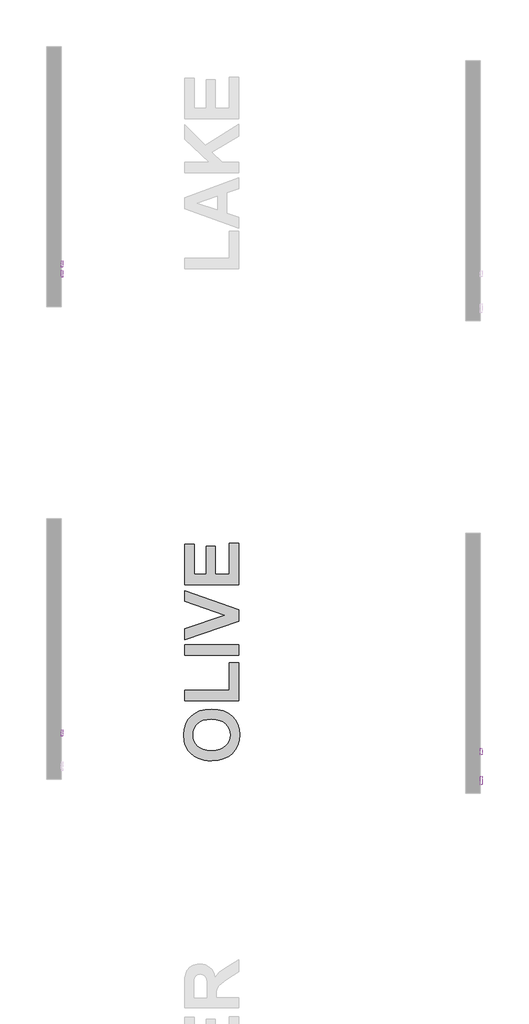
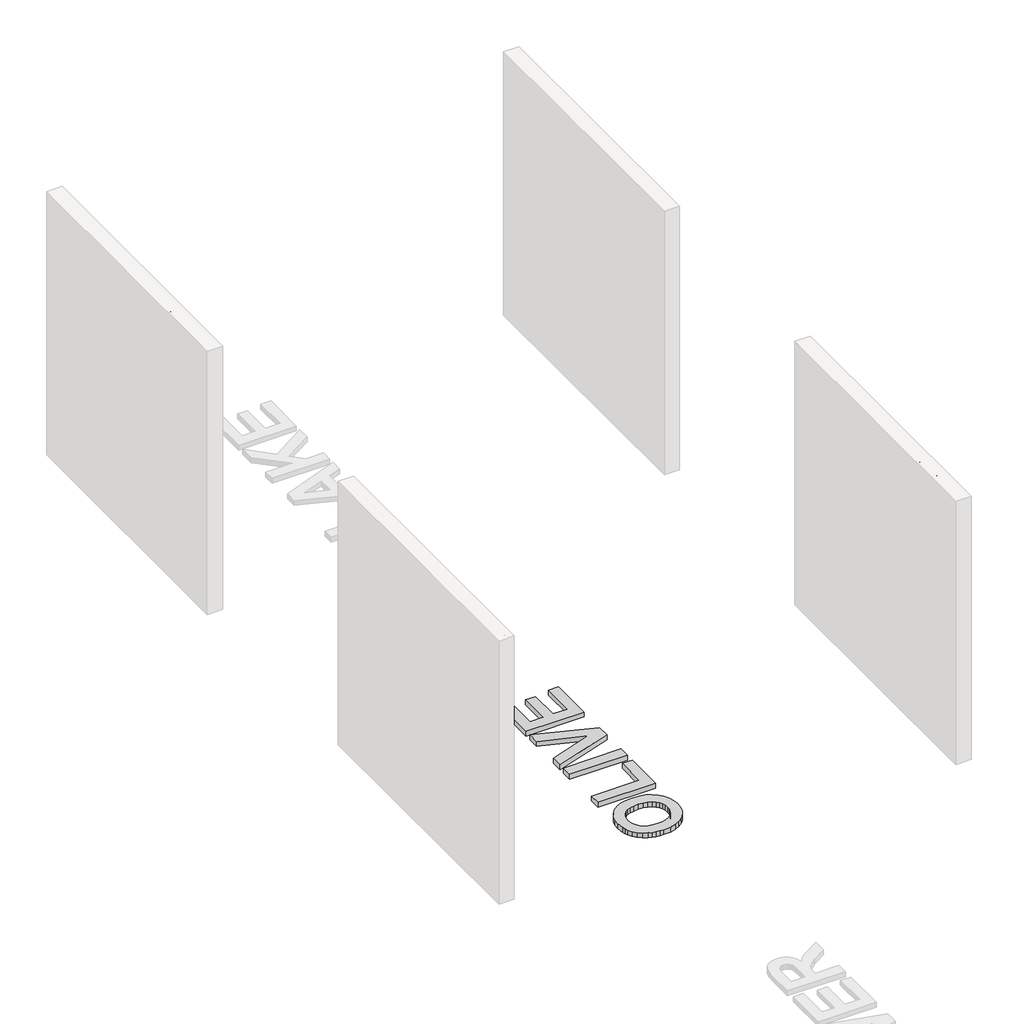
# One storey, part 8 of 10: 6 proxies.
"""IFC4 building model written with IfcOpenShell, lengths in millimetres."""

from ifc_helpers import new_model, si_unit, frame, origin, origin_with_axes, place, context, project, spatial, polyline, outline, extrude, element, save

model = new_model("IFC4")

# Units and contexts
model_context = context("Model", 3, world=origin())
ifc_project = project(units=[si_unit("LENGTHUNIT", "METRE", prefix="MILLI")], contexts=[model_context])

# Site, building, storey
site = spatial("IfcSite", under=ifc_project)
building = spatial("IfcBuilding", under=site)
storey = spatial("IfcBuildingStorey", under=building, Name="PORTOBELLO - SHOWROOM", Elevation=0.0)

# Proxies
placement = place(None, origin())
element("IfcBuildingElementProxy", 1, Name="10mm Arial", ObjectType="10mm Arial", at=placement, inside=storey, context=model_context, shape_type="SweptSolid", body=[
    extrude(outline(polyline([(5638.3898107, 2518.4745677), (5638.3898107, 2618.9308778), (5650.9468495, 2618.9308778), (5650.9468495, 2531.0316064), (5701.1750046, 2531.0316064), (5701.1750046, 2518.4745677), (5638.3898107, 2518.4745677)])), frame((-30275.742133, 0.0, 0.0), z_axis=(1.0, 0.0, 0.0), x_axis=(0.0, 1.0, 0.0)), (0.0, 0.0, 1.0), 20.0),
    extrude(outline(polyline([(5760.8209387, 2527.8923467), (5748.6440447, 2519.3820099), (5735.1918264, 2516.9049378), (5724.6979925, 2518.3948599), (5716.9571422, 2522.8646261), (5712.1838733, 2529.6520489), (5710.5927837, 2538.0949407), (5712.9962794, 2548.0277546), (5719.3115869, 2555.2382417), (5728.1039666, 2559.3585201), (5738.9687482, 2561.246981), (5760.7473623, 2565.563463), (5760.8209387, 2568.3593662), (5757.362848, 2577.6299925), (5743.481434, 2581.2597615), (5730.7772425, 2578.8440031), (5724.7194523, 2570.2723526), (5712.1624135, 2571.8419824), (5717.5948043, 2584.1047156), (5728.5331623, 2591.2906772), (5745.1001148, 2593.8168003), (5760.3181667, 2591.5849828), (5768.9143426, 2585.9809138), (5772.7648408, 2577.4583142), (5773.3779775, 2566.4709053), (5773.3779775, 2550.8481832), (5774.0156396, 2529.0327809), (5776.5172372, 2518.4745677), (5763.9601984, 2518.4745677), (5760.8209387, 2527.8923467)]), holes=[polyline([(5760.8209387, 2553.0064243), (5740.5629035, 2549.1559261), (5729.7594356, 2547.1203124), (5724.8666051, 2543.8093744), (5723.1498224, 2538.9778575), (5726.889956, 2532.1843033), (5737.8651022, 2529.4619766), (5750.5692938, 2532.4663462), (5758.7607996, 2539.738147), (5760.7473623, 2549.4502317), (5760.8209387, 2553.0064243)])]), frame((-30275.742133, 0.0, 0.0), z_axis=(1.0, 0.0, 0.0), x_axis=(0.0, 1.0, 0.0)), (0.0, 0.0, 1.0), 20.0),
    extrude(outline(polyline([(5790.6439058, 2518.4745677), (5790.6439058, 2618.9308778), (5803.2009446, 2618.9308778), (5803.2009446, 2564.9503264), (5831.3561799, 2592.2471704), (5848.7202101, 2592.2471704), (5820.2216182, 2564.6069699), (5850.28984, 2518.4745677), (5835.6236111, 2518.4745677), (5811.2207721, 2555.8759038), (5803.2009446, 2548.101331), (5803.2009446, 2518.4745677), (5790.6439058, 2518.4745677)])), frame((-30275.742133, 0.0, 0.0), z_axis=(1.0, 0.0, 0.0), x_axis=(0.0, 1.0, 0.0)), (0.0, 0.0, 1.0), 20.0),
    extrude(outline(polyline([(5912.927881, 2540.4493855), (5925.2396651, 2538.8797557), (5920.8036214, 2529.602998), (5913.7249587, 2522.6684224), (5904.1630925, 2518.345809), (5892.2774383, 2516.9049378), (5877.5437644, 2519.391207), (5866.2068676, 2526.8500144), (5858.9779864, 2538.7969822), (5856.5683593, 2554.7477324), (5859.0025119, 2571.2349771), (5866.3049695, 2583.5651553), (5877.4885821, 2591.253889), (5891.5661998, 2593.8168003), (5905.2054248, 2591.2600204), (5916.1039289, 2583.5896808), (5923.2500366, 2571.2840281), (5925.6320726, 2554.8213088), (5925.5584962, 2551.4367944), (5869.1253981, 2551.4367944), (5871.2989676, 2542.0374095), (5876.3481479, 2535.1273593), (5883.6352771, 2530.8783223), (5892.522693, 2529.4619766), (5904.8344771, 2532.0862015), (5912.927881, 2540.4493855)]), holes=[polyline([(5869.1253981, 2563.9938332), (5913.0750338, 2563.9938332), (5908.0473132, 2575.3736496), (5900.7264615, 2579.7882335), (5891.5171489, 2581.2597615), (5876.0538423, 2576.5631347), (5871.188603, 2571.0724959), (5869.1253981, 2563.9938332)])]), frame((-30275.742133, 0.0, 0.0), z_axis=(1.0, 0.0, 0.0), x_axis=(0.0, 1.0, 0.0)), (0.0, 0.0, 1.0), 20.0),
])
element("IfcBuildingElementProxy", 2, Name="10mm Arial", ObjectType="10mm Arial", at=placement, inside=storey, context=model_context, shape_type="SweptSolid", body=[
    extrude(outline(polyline([(592.0218065, 2518.4745677), (592.0218065, 2618.9308778), (635.3092546, 2618.9308778), (655.4078742, 2616.2208138), (666.3952832, 2606.6313564), (670.5032988, 2591.43783), (668.8018445, 2581.5418044), (663.6974819, 2573.3380359), (655.0369266, 2567.3231653), (642.6668945, 2563.9938332), (649.8038052, 2558.6227561), (659.9818737, 2545.6978353), (676.7327672, 2518.4745677), (662.1401147, 2518.4745677), (649.0680412, 2539.2966886), (639.6257366, 2553.0800007), (632.991598, 2559.591512), (627.0196469, 2561.982745), (619.7355834, 2562.4242034), (604.5788452, 2562.4242034), (604.5788452, 2518.4745677), (592.0218065, 2518.4745677)]), holes=[polyline([(604.5788452, 2574.9812421), (632.6850297, 2574.9812421), (647.0201647, 2576.7593384), (655.1626196, 2582.4492466), (657.94626, 2590.9718462), (652.6364965, 2602.0328315), (635.8488148, 2606.373839), (604.5788452, 2606.373839), (604.5788452, 2574.9812421)])]), frame((-25926.2609603, 0.0, 0.0), z_axis=(1.0, 0.0, 0.0), x_axis=(0.0, 1.0, 0.0)), (0.0, 0.0, 1.0), 20.0),
    extrude(outline(polyline([(737.9973822, 2527.8923467), (725.8204881, 2519.3820099), (712.3682698, 2516.9049378), (701.8744359, 2518.3948599), (694.1335856, 2522.8646261), (689.3603167, 2529.6520489), (687.7692271, 2538.0949407), (690.1727228, 2548.0277546), (696.4880304, 2555.2382417), (705.28041, 2559.3585201), (716.1451916, 2561.246981), (737.9238058, 2565.563463), (737.9973822, 2568.3593662), (734.5392914, 2577.6299925), (720.6578774, 2581.2597615), (707.9536859, 2578.8440031), (701.8958957, 2570.2723526), (689.3388569, 2571.8419824), (694.7712477, 2584.1047156), (705.7096057, 2591.2906772), (722.2765582, 2593.8168003), (737.4946101, 2591.5849828), (746.090786, 2585.9809138), (749.9412843, 2577.4583142), (750.5544209, 2566.4709053), (750.5544209, 2550.8481832), (751.192083, 2529.0327809), (753.6936806, 2518.4745677), (741.1366418, 2518.4745677), (737.9973822, 2527.8923467)]), holes=[polyline([(737.9973822, 2553.0064243), (717.739347, 2549.1559261), (706.935879, 2547.1203124), (702.0430485, 2543.8093744), (700.3262658, 2538.9778575), (704.0663995, 2532.1843033), (715.0415457, 2529.4619766), (727.7457372, 2532.4663462), (735.937243, 2539.738147), (737.9238058, 2549.4502317), (737.9973822, 2553.0064243)])]), frame((-25926.2609603, 0.0, 0.0), z_axis=(1.0, 0.0, 0.0), x_axis=(0.0, 1.0, 0.0)), (0.0, 0.0, 1.0), 20.0),
    extrude(outline(polyline([(-25906.2609603, 780.377388), (-25906.2609603, 767.8203492), (-25926.2609603, 767.8203492), (-25926.2609603, 780.377388), (-25906.2609603, 780.377388)])), frame((0.0, 0.0, 2606.373839), z_axis=(0.0, 0.0, 1.0), x_axis=(1.0, 0.0, 0.0)), (0.0, 0.0, 1.0), 12.5570388),
    extrude(outline(polyline([(-25906.2609603, 780.377388), (-25906.2609603, 767.8203492), (-25926.2609603, 767.8203492), (-25926.2609603, 780.377388), (-25906.2609603, 780.377388)])), frame((0.0, 0.0, 2518.4745677), z_axis=(0.0, 0.0, 1.0), x_axis=(1.0, 0.0, 0.0)), (0.0, 0.0, 1.0), 73.7726028),
    extrude(outline(polyline([(799.2129462, 2518.4745677), (799.2129462, 2592.2471704), (811.7699849, 2592.2471704), (811.7699849, 2581.9464746), (821.371705, 2590.8492188), (834.4805668, 2593.8168003), (846.3386297, 2591.4255673), (854.4320336, 2585.1470479), (858.1966927, 2575.9132098), (858.8588803, 2563.773104), (858.8588803, 2518.4745677), (846.3018415, 2518.4745677), (846.3018415, 2562.0808468), (844.854839, 2573.1908831), (839.7412793, 2579.0647323), (831.1205779, 2581.2597615), (817.4966813, 2576.3301428), (813.201659, 2569.1871007), (811.7699849, 2557.6172119), (811.7699849, 2518.4745677), (799.2129462, 2518.4745677)])), frame((-25926.2609603, 0.0, 0.0), z_axis=(1.0, 0.0, 0.0), x_axis=(0.0, 1.0, 0.0)), (0.0, 0.0, 1.0), 20.0),
])
element("IfcBuildingElementProxy", 3, Name="10mm Arial Narrow", ObjectType="10mm Arial Narrow", at=placement, inside=storey, context=model_context, shape_type="SweptSolid", body=[
    extrude(outline(polyline([(1095.7037104, 2518.4745677), (1095.7037104, 2619.1931714), (1127.000595, 2619.1931714), (1143.2962966, 2617.3148507), (1154.7692827, 2607.8344075), (1159.0589611, 2590.8152987), (1157.2726527, 2578.7394731), (1151.9137275, 2569.1130794), (1142.1699387, 2562.811821), (1127.2290395, 2560.7114015), (1105.450672, 2560.7114015), (1105.450672, 2518.4745677), (1095.7037104, 2518.4745677)]), holes=[polyline([(1105.450672, 2572.0828568), (1128.422027, 2572.0828568), (1144.2862224, 2576.613671), (1149.3119995, 2590.2822617), (1146.837185, 2600.4480381), (1140.8595561, 2606.247988), (1128.1935825, 2607.8217162), (1105.450672, 2607.8217162), (1105.450672, 2572.0828568)])]), frame((-30275.742133, 0.0, 0.0), z_axis=(1.0, 0.0, 0.0), x_axis=(0.0, 1.0, 0.0)), (0.0, 0.0, 1.0), 20.0),
    extrude(outline(polyline([(1167.1814292, 2555.0256739), (1169.135898, 2571.6164494), (1174.9993046, 2583.5685342), (1183.8578714, 2590.7930888), (1194.7978205, 2593.2012737), (1205.6108561, 2590.7930888), (1214.4948055, 2583.5685342), (1220.4343603, 2571.8068198), (1222.4142119, 2555.7871552), (1220.4692615, 2538.6252687), (1214.6344104, 2526.4828135), (1205.7853622, 2519.2582589), (1194.7978205, 2516.8500741), (1183.9371923, 2519.2646046), (1175.0627614, 2526.5081962), (1169.1517622, 2538.4666267), (1167.1814292, 2555.0256739)]), holes=[polyline([(1176.9283908, 2555.0510566), (1178.2324277, 2542.4993052), (1182.1445383, 2533.6280471), (1187.985735, 2528.3547886), (1195.0770303, 2526.5970357), (1201.7971035, 2528.3706528), (1207.4891768, 2533.6915039), (1211.3727319, 2542.5786262), (1212.6672502, 2555.0510566), (1211.3632133, 2567.5647339), (1207.4511028, 2576.4233006), (1201.609906, 2581.6965592), (1194.5186107, 2583.454312), (1187.7509449, 2581.6870407), (1182.0683901, 2576.3852265), (1178.2133906, 2567.5171413), (1176.9283908, 2555.0510566)])]), frame((-30275.742133, 0.0, 0.0), z_axis=(1.0, 0.0, 0.0), x_axis=(0.0, 1.0, 0.0)), (0.0, 0.0, 1.0), 20.0),
    extrude(outline(polyline([(1293.8919306, 2526.5970357), (1295.5164243, 2516.8500741), (1288.1554376, 2516.8500741), (1279.8806733, 2518.9695306), (1275.5656121, 2524.7694804), (1274.3980073, 2539.4153056), (1274.3980073, 2581.8298184), (1266.2755393, 2581.8298184), (1266.2755393, 2585.0788056), (1264.6510457, 2580.2053248), (1257.0869973, 2581.8298184), (1251.0078376, 2579.5073002), (1247.136974, 2573.0220171), (1245.1571224, 2557.6147106), (1245.1571224, 2518.4745677), (1235.4101607, 2518.4745677), (1235.4101607, 2591.5767801), (1245.1571224, 2591.5767801), (1245.1571224, 2581.8805838), (1251.4012697, 2590.967595), (1257.7977133, 2593.2012737), (1266.2755393, 2591.5767801), (1274.3980073, 2591.5767801), (1274.3980073, 2607.8217162), (1284.144969, 2615.9441842), (1284.144969, 2591.5767801), (1293.8919306, 2591.5767801), (1293.8919306, 2581.8298184), (1284.144969, 2581.8298184), (1284.144969, 2537.1816269), (1285.0079812, 2529.1860724), (1289.6276349, 2526.5970357), (1293.8919306, 2526.5970357)])), frame((-30275.742133, 0.0, 0.0), z_axis=(1.0, 0.0, 0.0), x_axis=(0.0, 1.0, 0.0)), (0.0, 0.0, 1.0), 20.0),
    extrude(outline(polyline([(1300.3899051, 2555.0256739), (1302.344374, 2571.6164494), (1308.2077806, 2583.5685342), (1317.0663473, 2590.7930888), (1328.0062964, 2593.2012737), (1338.819332, 2590.7930888), (1347.7032814, 2583.5685342), (1353.6428362, 2571.8068198), (1355.6226878, 2555.7871552), (1353.6777374, 2538.6252687), (1347.8428864, 2526.4828135), (1338.9938382, 2519.2582589), (1328.0062964, 2516.8500741), (1317.1456683, 2519.2646046), (1308.2712374, 2526.5081962), (1302.3602382, 2538.4666267), (1300.3899051, 2555.0256739)]), holes=[polyline([(1310.1368667, 2555.0510566), (1311.4409036, 2542.4993052), (1315.3530142, 2533.6280471), (1321.1942109, 2528.3547886), (1328.2855063, 2526.5970357), (1335.0055794, 2528.3706528), (1340.6976528, 2533.6915039), (1344.5812078, 2542.5786262), (1345.8757261, 2555.0510566), (1344.5716893, 2567.5647339), (1340.6595787, 2576.4233006), (1334.8183819, 2581.6965592), (1327.7270866, 2583.454312), (1320.9594208, 2581.6870407), (1315.276866, 2576.3852265), (1311.4218666, 2567.5171413), (1310.1368667, 2555.0510566)])]), frame((-30275.742133, 0.0, 0.0), z_axis=(1.0, 0.0, 0.0), x_axis=(0.0, 1.0, 0.0)), (0.0, 0.0, 1.0), 20.0),
    extrude(outline(polyline([(1378.3655983, 2518.4745677), (1368.6186367, 2518.4745677), (1368.6186367, 2619.1931714), (1378.3655983, 2619.1931714), (1378.3655983, 2583.7842873), (1385.764659, 2590.8660641), (1394.9658924, 2593.2012737), (1407.847619, 2589.0004347), (1417.1250005, 2576.2710043), (1420.6024321, 2555.5840935), (1418.6701731, 2539.1297501), (1412.8733961, 2526.927011), (1404.5002738, 2519.3693083), (1394.8389788, 2516.8500741), (1385.4981406, 2519.4644935), (1378.3655983, 2527.2316035), (1378.3655983, 2518.4745677)]), holes=[polyline([(1378.3655983, 2555.5840935), (1380.4469807, 2538.3365403), (1386.3357701, 2529.6048872), (1394.7882134, 2526.5970357), (1400.730941, 2528.3865169), (1405.9692983, 2533.7549607), (1410.8554705, 2555.1779701), (1406.1469773, 2576.613671), (1400.9022743, 2581.7441518), (1394.5851517, 2583.454312), (1388.6075229, 2581.6648308), (1383.3152273, 2576.2963871), (1378.3655983, 2555.5840935)])]), frame((-30275.742133, 0.0, 0.0), z_axis=(1.0, 0.0, 0.0), x_axis=(0.0, 1.0, 0.0)), (0.0, 0.0, 1.0), 20.0),
    extrude(outline(polyline([(1472.5862276, 2541.2174782), (1482.3331893, 2539.5929846), (1478.6336589, 2529.706418), (1472.814672, 2522.5865671), (1465.1110188, 2518.2841973), (1455.7574891, 2516.8500741), (1444.1639351, 2519.2646046), (1435.0198129, 2526.5081962), (1429.0802582, 2538.3143304), (1427.1004066, 2554.4164888), (1429.0897767, 2571.0834124), (1435.057887, 2583.2639417), (1444.0719228, 2590.7169407), (1455.1990695, 2593.2012737), (1465.8820187, 2590.8026073), (1474.629536, 2583.6066083), (1480.4643871, 2571.8671037), (1482.4093374, 2555.8379207), (1482.3331893, 2552.5889335), (1436.8473682, 2552.5889335), (1442.8503798, 2533.1457756), (1448.780416, 2528.2342207), (1455.8844027, 2526.5970357), (1466.0628705, 2530.2521463), (1472.5862276, 2541.2174782)]), holes=[polyline([(1437.5073188, 2562.3358951), (1472.5862276, 2562.3358951), (1468.3219319, 2576.6009796), (1462.4965994, 2581.7409789), (1455.2752176, 2583.454312), (1443.0661328, 2577.7432017), (1437.5073188, 2562.3358951)])]), frame((-30275.742133, 0.0, 0.0), z_axis=(1.0, 0.0, 0.0), x_axis=(0.0, 1.0, 0.0)), (0.0, 0.0, 1.0), 20.0),
    extrude(outline(polyline([(-30255.742133, 1505.0760998), (-30255.742133, 1495.3291382), (-30275.742133, 1495.3291382), (-30275.742133, 1505.0760998), (-30255.742133, 1505.0760998)])), frame((0.0, 0.0, 2518.4745677), z_axis=(0.0, 0.0, 1.0), x_axis=(1.0, 0.0, 0.0)), (0.0, 0.0, 1.0), 100.7186038),
    extrude(outline(polyline([(-30255.742133, 1531.0679975), (-30255.742133, 1521.3210359), (-30275.742133, 1521.3210359), (-30275.742133, 1531.0679975), (-30255.742133, 1531.0679975)])), frame((0.0, 0.0, 2518.4745677), z_axis=(0.0, 0.0, 1.0), x_axis=(1.0, 0.0, 0.0)), (0.0, 0.0, 1.0), 100.7186038),
    extrude(outline(polyline([(1542.4394528, 2555.0256739), (1544.3939217, 2571.6164494), (1550.2573283, 2583.5685342), (1559.115895, 2590.7930888), (1570.0558442, 2593.2012737), (1580.8688797, 2590.7930888), (1589.7528292, 2583.5685342), (1595.6923839, 2571.8068198), (1597.6722355, 2555.7871552), (1595.7272852, 2538.6252687), (1589.8924341, 2526.4828135), (1581.0433859, 2519.2582589), (1570.0558442, 2516.8500741), (1559.195216, 2519.2646046), (1550.3207851, 2526.5081962), (1544.4097859, 2538.4666267), (1542.4394528, 2555.0256739)]), holes=[polyline([(1552.1864145, 2555.0510566), (1553.4904513, 2542.4993052), (1557.4025619, 2533.6280471), (1563.2437587, 2528.3547886), (1570.335054, 2526.5970357), (1577.0551272, 2528.3706528), (1582.7472005, 2533.6915039), (1586.6307555, 2542.5786262), (1587.9252739, 2555.0510566), (1586.621237, 2567.5647339), (1582.7091264, 2576.4233006), (1576.8679297, 2581.6965592), (1569.7766343, 2583.454312), (1563.0089686, 2581.6870407), (1557.3264138, 2576.3852265), (1553.4714143, 2567.5171413), (1552.1864145, 2555.0510566)])]), frame((-30275.742133, 0.0, 0.0), z_axis=(1.0, 0.0, 0.0), x_axis=(0.0, 1.0, 0.0)), (0.0, 0.0, 1.0), 20.0),
])
element("IfcBuildingElementProxy", 4, Name="10mm Arial Narrow", ObjectType="10mm Arial Narrow", at=placement, inside=storey, context=model_context, shape_type="SweptSolid", body=[
    extrude(outline(polyline([(5960.7037104, 2518.4745677), (5960.7037104, 2619.1931714), (5992.000595, 2619.1931714), (6008.2962966, 2617.3148507), (6019.7692827, 2607.8344075), (6024.0589611, 2590.8152987), (6022.2726527, 2578.7394731), (6016.9137275, 2569.1130794), (6007.1699387, 2562.811821), (5992.2290395, 2560.7114015), (5970.450672, 2560.7114015), (5970.450672, 2518.4745677), (5960.7037104, 2518.4745677)]), holes=[polyline([(5970.450672, 2572.0828568), (5993.422027, 2572.0828568), (6009.2862224, 2576.613671), (6014.3119995, 2590.2822617), (6011.837185, 2600.4480381), (6005.8595561, 2606.247988), (5993.1935825, 2607.8217162), (5970.450672, 2607.8217162), (5970.450672, 2572.0828568)])]), frame((-30275.742133, 0.0, 0.0), z_axis=(1.0, 0.0, 0.0), x_axis=(0.0, 1.0, 0.0)), (0.0, 0.0, 1.0), 20.0),
    extrude(outline(polyline([(6032.1814292, 2555.0256739), (6034.135898, 2571.6164494), (6039.9993046, 2583.5685342), (6048.8578714, 2590.7930888), (6059.7978205, 2593.2012737), (6070.6108561, 2590.7930888), (6079.4948055, 2583.5685342), (6085.4343603, 2571.8068198), (6087.4142119, 2555.7871552), (6085.4692615, 2538.6252687), (6079.6344104, 2526.4828135), (6070.7853622, 2519.2582589), (6059.7978205, 2516.8500741), (6048.9371923, 2519.2646046), (6040.0627614, 2526.5081962), (6034.1517622, 2538.4666267), (6032.1814292, 2555.0256739)]), holes=[polyline([(6041.9283908, 2555.0510566), (6043.2324277, 2542.4993052), (6047.1445383, 2533.6280471), (6052.985735, 2528.3547886), (6060.0770303, 2526.5970357), (6066.7971035, 2528.3706528), (6072.4891768, 2533.6915039), (6076.3727319, 2542.5786262), (6077.6672502, 2555.0510566), (6076.3632133, 2567.5647339), (6072.4511028, 2576.4233006), (6066.609906, 2581.6965592), (6059.5186107, 2583.454312), (6052.7509449, 2581.6870407), (6047.0683901, 2576.3852265), (6043.2133906, 2567.5171413), (6041.9283908, 2555.0510566)])]), frame((-30275.742133, 0.0, 0.0), z_axis=(1.0, 0.0, 0.0), x_axis=(0.0, 1.0, 0.0)), (0.0, 0.0, 1.0), 20.0),
    extrude(outline(polyline([(6158.8919306, 2526.5970357), (6160.5164243, 2516.8500741), (6153.1554376, 2516.8500741), (6144.8806733, 2518.9695306), (6140.5656121, 2524.7694804), (6139.3980073, 2539.4153056), (6139.3980073, 2581.8298184), (6131.2755393, 2581.8298184), (6131.2755393, 2585.0788056), (6129.6510457, 2580.2053248), (6122.0869973, 2581.8298184), (6116.0078376, 2579.5073002), (6112.136974, 2573.0220171), (6110.1571224, 2557.6147106), (6110.1571224, 2518.4745677), (6100.4101607, 2518.4745677), (6100.4101607, 2591.5767801), (6110.1571224, 2591.5767801), (6110.1571224, 2581.8805838), (6116.4012697, 2590.967595), (6122.7977133, 2593.2012737), (6131.2755393, 2591.5767801), (6139.3980073, 2591.5767801), (6139.3980073, 2607.8217162), (6149.144969, 2615.9441842), (6149.144969, 2591.5767801), (6158.8919306, 2591.5767801), (6158.8919306, 2581.8298184), (6149.144969, 2581.8298184), (6149.144969, 2537.1816269), (6150.0079812, 2529.1860724), (6154.6276349, 2526.5970357), (6158.8919306, 2526.5970357)])), frame((-30275.742133, 0.0, 0.0), z_axis=(1.0, 0.0, 0.0), x_axis=(0.0, 1.0, 0.0)), (0.0, 0.0, 1.0), 20.0),
    extrude(outline(polyline([(6165.3899051, 2555.0256739), (6167.344374, 2571.6164494), (6173.2077806, 2583.5685342), (6182.0663473, 2590.7930888), (6193.0062964, 2593.2012737), (6203.819332, 2590.7930888), (6212.7032814, 2583.5685342), (6218.6428362, 2571.8068198), (6220.6226878, 2555.7871552), (6218.6777374, 2538.6252687), (6212.8428864, 2526.4828135), (6203.9938382, 2519.2582589), (6193.0062964, 2516.8500741), (6182.1456683, 2519.2646046), (6173.2712374, 2526.5081962), (6167.3602382, 2538.4666267), (6165.3899051, 2555.0256739)]), holes=[polyline([(6175.1368667, 2555.0510566), (6176.4409036, 2542.4993052), (6180.3530142, 2533.6280471), (6186.1942109, 2528.3547886), (6193.2855063, 2526.5970357), (6200.0055794, 2528.3706528), (6205.6976528, 2533.6915039), (6209.5812078, 2542.5786262), (6210.8757261, 2555.0510566), (6209.5716893, 2567.5647339), (6205.6595787, 2576.4233006), (6199.8183819, 2581.6965592), (6192.7270866, 2583.454312), (6185.9594208, 2581.6870407), (6180.276866, 2576.3852265), (6176.4218666, 2567.5171413), (6175.1368667, 2555.0510566)])]), frame((-30275.742133, 0.0, 0.0), z_axis=(1.0, 0.0, 0.0), x_axis=(0.0, 1.0, 0.0)), (0.0, 0.0, 1.0), 20.0),
    extrude(outline(polyline([(6243.3655983, 2518.4745677), (6233.6186367, 2518.4745677), (6233.6186367, 2619.1931714), (6243.3655983, 2619.1931714), (6243.3655983, 2583.7842873), (6250.764659, 2590.8660641), (6259.9658924, 2593.2012737), (6272.847619, 2589.0004347), (6282.1250005, 2576.2710043), (6285.6024321, 2555.5840935), (6283.6701731, 2539.1297501), (6277.8733961, 2526.927011), (6269.5002738, 2519.3693083), (6259.8389788, 2516.8500741), (6250.4981406, 2519.4644935), (6243.3655983, 2527.2316035), (6243.3655983, 2518.4745677)]), holes=[polyline([(6243.3655983, 2555.5840935), (6245.4469807, 2538.3365403), (6251.3357701, 2529.6048872), (6259.7882134, 2526.5970357), (6265.730941, 2528.3865169), (6270.9692983, 2533.7549607), (6275.8554705, 2555.1779701), (6271.1469773, 2576.613671), (6265.9022743, 2581.7441518), (6259.5851517, 2583.454312), (6253.6075229, 2581.6648308), (6248.3152273, 2576.2963871), (6243.3655983, 2555.5840935)])]), frame((-30275.742133, 0.0, 0.0), z_axis=(1.0, 0.0, 0.0), x_axis=(0.0, 1.0, 0.0)), (0.0, 0.0, 1.0), 20.0),
    extrude(outline(polyline([(6337.5862276, 2541.2174782), (6347.3331893, 2539.5929846), (6343.6336589, 2529.706418), (6337.814672, 2522.5865671), (6330.1110188, 2518.2841973), (6320.7574891, 2516.8500741), (6309.1639351, 2519.2646046), (6300.0198129, 2526.5081962), (6294.0802582, 2538.3143304), (6292.1004066, 2554.4164888), (6294.0897767, 2571.0834124), (6300.057887, 2583.2639417), (6309.0719228, 2590.7169407), (6320.1990695, 2593.2012737), (6330.8820187, 2590.8026073), (6339.629536, 2583.6066083), (6345.4643871, 2571.8671037), (6347.4093374, 2555.8379207), (6347.3331893, 2552.5889335), (6301.8473682, 2552.5889335), (6307.8503798, 2533.1457756), (6313.780416, 2528.2342207), (6320.8844027, 2526.5970357), (6331.0628705, 2530.2521463), (6337.5862276, 2541.2174782)]), holes=[polyline([(6302.5073188, 2562.3358951), (6337.5862276, 2562.3358951), (6333.3219319, 2576.6009796), (6327.4965994, 2581.7409789), (6320.2752176, 2583.454312), (6308.0661328, 2577.7432017), (6302.5073188, 2562.3358951)])]), frame((-30275.742133, 0.0, 0.0), z_axis=(1.0, 0.0, 0.0), x_axis=(0.0, 1.0, 0.0)), (0.0, 0.0, 1.0), 20.0),
    extrude(outline(polyline([(-30255.742133, 6370.0760998), (-30255.742133, 6360.3291382), (-30275.742133, 6360.3291382), (-30275.742133, 6370.0760998), (-30255.742133, 6370.0760998)])), frame((0.0, 0.0, 2518.4745677), z_axis=(0.0, 0.0, 1.0), x_axis=(1.0, 0.0, 0.0)), (0.0, 0.0, 1.0), 100.7186038),
    extrude(outline(polyline([(-30255.742133, 6396.0679975), (-30255.742133, 6386.3210359), (-30275.742133, 6386.3210359), (-30275.742133, 6396.0679975), (-30255.742133, 6396.0679975)])), frame((0.0, 0.0, 2518.4745677), z_axis=(0.0, 0.0, 1.0), x_axis=(1.0, 0.0, 0.0)), (0.0, 0.0, 1.0), 100.7186038),
    extrude(outline(polyline([(6407.4394528, 2555.0256739), (6409.3939217, 2571.6164494), (6415.2573283, 2583.5685342), (6424.115895, 2590.7930888), (6435.0558442, 2593.2012737), (6445.8688797, 2590.7930888), (6454.7528292, 2583.5685342), (6460.6923839, 2571.8068198), (6462.6722355, 2555.7871552), (6460.7272852, 2538.6252687), (6454.8924341, 2526.4828135), (6446.0433859, 2519.2582589), (6435.0558442, 2516.8500741), (6424.195216, 2519.2646046), (6415.3207851, 2526.5081962), (6409.4097859, 2538.4666267), (6407.4394528, 2555.0256739)]), holes=[polyline([(6417.1864145, 2555.0510566), (6418.4904513, 2542.4993052), (6422.4025619, 2533.6280471), (6428.2437587, 2528.3547886), (6435.335054, 2526.5970357), (6442.0551272, 2528.3706528), (6447.7472005, 2533.6915039), (6451.6307555, 2542.5786262), (6452.9252739, 2555.0510566), (6451.621237, 2567.5647339), (6447.7091264, 2576.4233006), (6441.8679297, 2581.6965592), (6434.7766343, 2583.454312), (6428.0089686, 2581.6870407), (6422.3264138, 2576.3852265), (6418.4714143, 2567.5171413), (6417.1864145, 2555.0510566)])]), frame((-30275.742133, 0.0, 0.0), z_axis=(1.0, 0.0, 0.0), x_axis=(0.0, 1.0, 0.0)), (0.0, 0.0, 1.0), 20.0),
])
element("IfcBuildingElementProxy", 5, Name="10mm Arial Narrow", ObjectType="10mm Arial Narrow", at=placement, inside=storey, context=model_context, shape_type="SweptSolid", body=[
    extrude(outline(polyline([(904.3357061, 2518.4745677), (904.3357061, 2619.1931714), (935.6325908, 2619.1931714), (951.9282923, 2617.3148507), (963.4012784, 2607.8344075), (967.6909568, 2590.8152987), (965.9046484, 2578.7394731), (960.5457232, 2569.1130794), (950.8019344, 2562.811821), (935.8610352, 2560.7114015), (914.0826677, 2560.7114015), (914.0826677, 2518.4745677), (904.3357061, 2518.4745677)]), holes=[polyline([(914.0826677, 2572.0828568), (937.0540227, 2572.0828568), (952.9182181, 2576.613671), (957.9439952, 2590.2822617), (955.4691807, 2600.4480381), (949.4915519, 2606.247988), (936.8255783, 2607.8217162), (914.0826677, 2607.8217162), (914.0826677, 2572.0828568)])]), frame((-25926.2609603, 0.0, 0.0), z_axis=(1.0, 0.0, 0.0), x_axis=(0.0, 1.0, 0.0)), (0.0, 0.0, 1.0), 20.0),
    extrude(outline(polyline([(975.8134249, 2555.0256739), (977.7678938, 2571.6164494), (983.6313004, 2583.5685342), (992.4898671, 2590.7930888), (1003.4298162, 2593.2012737), (1014.2428518, 2590.7930888), (1023.1268012, 2583.5685342), (1029.066356, 2571.8068198), (1031.0462076, 2555.7871552), (1029.1012572, 2538.6252687), (1023.2664062, 2526.4828135), (1014.417358, 2519.2582589), (1003.4298162, 2516.8500741), (992.5691881, 2519.2646046), (983.6947572, 2526.5081962), (977.783758, 2538.4666267), (975.8134249, 2555.0256739)]), holes=[polyline([(985.5603865, 2555.0510566), (986.8644234, 2542.4993052), (990.776534, 2533.6280471), (996.6177307, 2528.3547886), (1003.7090261, 2526.5970357), (1010.4290992, 2528.3706528), (1016.1211726, 2533.6915039), (1020.0047276, 2542.5786262), (1021.2992459, 2555.0510566), (1019.9952091, 2567.5647339), (1016.0830985, 2576.4233006), (1010.2419017, 2581.6965592), (1003.1506064, 2583.454312), (996.3829406, 2581.6870407), (990.7003859, 2576.3852265), (986.8453864, 2567.5171413), (985.5603865, 2555.0510566)])]), frame((-25926.2609603, 0.0, 0.0), z_axis=(1.0, 0.0, 0.0), x_axis=(0.0, 1.0, 0.0)), (0.0, 0.0, 1.0), 20.0),
    extrude(outline(polyline([(1102.5239264, 2526.5970357), (1104.14842, 2516.8500741), (1096.7874333, 2516.8500741), (1088.512669, 2518.9695306), (1084.1976079, 2524.7694804), (1083.0300031, 2539.4153056), (1083.0300031, 2581.8298184), (1074.907535, 2581.8298184), (1074.907535, 2585.0788056), (1073.2830414, 2580.2053248), (1065.7189931, 2581.8298184), (1059.6398334, 2579.5073002), (1055.7689697, 2573.0220171), (1053.7891181, 2557.6147106), (1053.7891181, 2518.4745677), (1044.0421565, 2518.4745677), (1044.0421565, 2591.5767801), (1053.7891181, 2591.5767801), (1053.7891181, 2581.8805838), (1060.0332654, 2590.967595), (1066.429709, 2593.2012737), (1074.907535, 2591.5767801), (1083.0300031, 2591.5767801), (1083.0300031, 2607.8217162), (1092.7769647, 2615.9441842), (1092.7769647, 2591.5767801), (1102.5239264, 2591.5767801), (1102.5239264, 2581.8298184), (1092.7769647, 2581.8298184), (1092.7769647, 2537.1816269), (1093.639977, 2529.1860724), (1098.2596307, 2526.5970357), (1102.5239264, 2526.5970357)])), frame((-25926.2609603, 0.0, 0.0), z_axis=(1.0, 0.0, 0.0), x_axis=(0.0, 1.0, 0.0)), (0.0, 0.0, 1.0), 20.0),
    extrude(outline(polyline([(1109.0219008, 2555.0256739), (1110.9763697, 2571.6164494), (1116.8397763, 2583.5685342), (1125.698343, 2590.7930888), (1136.6382922, 2593.2012737), (1147.4513278, 2590.7930888), (1156.3352772, 2583.5685342), (1162.2748319, 2571.8068198), (1164.2546835, 2555.7871552), (1162.3097332, 2538.6252687), (1156.4748821, 2526.4828135), (1147.6258339, 2519.2582589), (1136.6382922, 2516.8500741), (1125.777664, 2519.2646046), (1116.9032331, 2526.5081962), (1110.9922339, 2538.4666267), (1109.0219008, 2555.0256739)]), holes=[polyline([(1118.7688625, 2555.0510566), (1120.0728993, 2542.4993052), (1123.9850099, 2533.6280471), (1129.8262067, 2528.3547886), (1136.917502, 2526.5970357), (1143.6375752, 2528.3706528), (1149.3296485, 2533.6915039), (1153.2132035, 2542.5786262), (1154.5077219, 2555.0510566), (1153.203685, 2567.5647339), (1149.2915744, 2576.4233006), (1143.4503777, 2581.6965592), (1136.3590823, 2583.454312), (1129.5914166, 2581.6870407), (1123.9088618, 2576.3852265), (1120.0538623, 2567.5171413), (1118.7688625, 2555.0510566)])]), frame((-25926.2609603, 0.0, 0.0), z_axis=(1.0, 0.0, 0.0), x_axis=(0.0, 1.0, 0.0)), (0.0, 0.0, 1.0), 20.0),
    extrude(outline(polyline([(1186.997594, 2518.4745677), (1177.2506324, 2518.4745677), (1177.2506324, 2619.1931714), (1186.997594, 2619.1931714), (1186.997594, 2583.7842873), (1194.3966548, 2590.8660641), (1203.5978881, 2593.2012737), (1216.4796148, 2589.0004347), (1225.7569962, 2576.2710043), (1229.2344279, 2555.5840935), (1227.3021689, 2539.1297501), (1221.5053919, 2526.927011), (1213.1322695, 2519.3693083), (1203.4709746, 2516.8500741), (1194.1301363, 2519.4644935), (1186.997594, 2527.2316035), (1186.997594, 2518.4745677)]), holes=[polyline([(1186.997594, 2555.5840935), (1189.0789765, 2538.3365403), (1194.9677658, 2529.6048872), (1203.4202091, 2526.5970357), (1209.3629367, 2528.3865169), (1214.601294, 2533.7549607), (1219.4874662, 2555.1779701), (1214.778973, 2576.613671), (1209.53427, 2581.7441518), (1203.2171474, 2583.454312), (1197.2395186, 2581.6648308), (1191.947223, 2576.2963871), (1186.997594, 2555.5840935)])]), frame((-25926.2609603, 0.0, 0.0), z_axis=(1.0, 0.0, 0.0), x_axis=(0.0, 1.0, 0.0)), (0.0, 0.0, 1.0), 20.0),
    extrude(outline(polyline([(1281.2182234, 2541.2174782), (1290.965185, 2539.5929846), (1287.2656547, 2529.706418), (1281.4466678, 2522.5865671), (1273.7430145, 2518.2841973), (1264.3894849, 2516.8500741), (1252.7959309, 2519.2646046), (1243.6518087, 2526.5081962), (1237.7122539, 2538.3143304), (1235.7324023, 2554.4164888), (1237.7217724, 2571.0834124), (1243.6898827, 2583.2639417), (1252.7039186, 2590.7169407), (1263.8310652, 2593.2012737), (1274.5140144, 2590.8026073), (1283.2615317, 2583.6066083), (1289.0963828, 2571.8671037), (1291.0413332, 2555.8379207), (1290.965185, 2552.5889335), (1245.479364, 2552.5889335), (1251.4823755, 2533.1457756), (1257.4124117, 2528.2342207), (1264.5163984, 2526.5970357), (1274.6948662, 2530.2521463), (1281.2182234, 2541.2174782)]), holes=[polyline([(1246.1393145, 2562.3358951), (1281.2182234, 2562.3358951), (1276.9539276, 2576.6009796), (1271.1285951, 2581.7409789), (1263.9072133, 2583.454312), (1251.6981286, 2577.7432017), (1246.1393145, 2562.3358951)])]), frame((-25926.2609603, 0.0, 0.0), z_axis=(1.0, 0.0, 0.0), x_axis=(0.0, 1.0, 0.0)), (0.0, 0.0, 1.0), 20.0),
    extrude(outline(polyline([(-25906.2609603, 1313.7080955), (-25906.2609603, 1303.9611339), (-25926.2609603, 1303.9611339), (-25926.2609603, 1313.7080955), (-25906.2609603, 1313.7080955)])), frame((0.0, 0.0, 2518.4745677), z_axis=(0.0, 0.0, 1.0), x_axis=(1.0, 0.0, 0.0)), (0.0, 0.0, 1.0), 100.7186038),
    extrude(outline(polyline([(-25906.2609603, 1339.6999933), (-25906.2609603, 1329.9530316), (-25926.2609603, 1329.9530316), (-25926.2609603, 1339.6999933), (-25906.2609603, 1339.6999933)])), frame((0.0, 0.0, 2518.4745677), z_axis=(0.0, 0.0, 1.0), x_axis=(1.0, 0.0, 0.0)), (0.0, 0.0, 1.0), 100.7186038),
    extrude(outline(polyline([(1351.0714485, 2555.0256739), (1353.0259174, 2571.6164494), (1358.889324, 2583.5685342), (1367.7478908, 2590.7930888), (1378.6878399, 2593.2012737), (1389.5008755, 2590.7930888), (1398.3848249, 2583.5685342), (1404.3243797, 2571.8068198), (1406.3042313, 2555.7871552), (1404.3592809, 2538.6252687), (1398.5244298, 2526.4828135), (1389.6753816, 2519.2582589), (1378.6878399, 2516.8500741), (1367.8272117, 2519.2646046), (1358.9527808, 2526.5081962), (1353.0417816, 2538.4666267), (1351.0714485, 2555.0256739)]), holes=[polyline([(1360.8184102, 2555.0510566), (1362.1224471, 2542.4993052), (1366.0345576, 2533.6280471), (1371.8757544, 2528.3547886), (1378.9670497, 2526.5970357), (1385.6871229, 2528.3706528), (1391.3791962, 2533.6915039), (1395.2627513, 2542.5786262), (1396.5572696, 2555.0510566), (1395.2532327, 2567.5647339), (1391.3411222, 2576.4233006), (1385.4999254, 2581.6965592), (1378.4086301, 2583.454312), (1371.6409643, 2581.6870407), (1365.9584095, 2576.3852265), (1362.10341, 2567.5171413), (1360.8184102, 2555.0510566)])]), frame((-25926.2609603, 0.0, 0.0), z_axis=(1.0, 0.0, 0.0), x_axis=(0.0, 1.0, 0.0)), (0.0, 0.0, 1.0), 20.0),
])
element("IfcBuildingElementProxy", 6, Name="550mm Arial", ObjectType="550mm Arial", at=placement, inside=storey, context=model_context, shape_type="SweptSolid", body=[
    extrude(outline(polyline([(-28709.9746652, 840.9950137), (-28751.0478871, 842.5694002), (-28788.6765948, 847.2925597), (-28822.8607883, 855.1644924), (-28853.6004677, 866.185198), (-28894.1517934, 888.4005747), (-28930.3539851, 917.4701866), (-28959.9802862, 951.5152078), (-28980.80394, 988.6568125), (-28990.4851123, 1015.3952885), (-28997.4002355, 1044.1169697), (-29002.932334, 1107.5099474), (-28998.1352391, 1165.3534301), (-28983.7439546, 1217.1081252), (-28959.7584804, 1262.7740326), (-28926.1788165, 1302.3511523), (-28884.0574533, 1334.3172875), (-28834.4468814, 1357.1502412), (-28777.3471006, 1370.8500134), (-28712.758111, 1375.4166041), (-28648.608384, 1370.8848064), (-28591.8521848, 1357.2894134), (-28542.4895135, 1334.6304251), (-28500.52037, 1302.9078415), (-28467.0320379, 1263.5916698), (-28443.1118007, 1218.1519173), (-28428.7596584, 1166.5885842), (-28423.975611, 1108.9016703), (-28428.7379127, 1050.6058777), (-28443.024818, 998.6076312), (-28466.8363269, 952.9069307), (-28500.1724393, 913.5037763), (-28541.858889, 881.7811927), (-28590.7214099, 859.1222043), (-28646.760002, 845.5268113), (-28709.9746652, 840.9950137)]), holes=[polyline([(-28713.8714893, 947.8793318), (-28669.4842273, 950.7193163), (-28630.8204258, 959.2392699), (-28597.8800846, 973.4391925), (-28570.6632038, 993.3190842), (-28549.352447, 1017.5742047), (-28534.1304778, 1044.8998138), (-28524.9972964, 1075.2959116), (-28521.9529025, 1108.762498), (-28524.9755507, 1142.1942914), (-28534.0434952, 1172.48601), (-28549.1567359, 1199.6376537), (-28570.315273, 1223.6492228), (-28597.5191064, 1243.2855629), (-28630.7682361, 1257.3115202), (-28670.0626622, 1265.7270946), (-28715.4023845, 1268.532286), (-28760.1114824, 1265.8010298), (-28798.7665857, 1257.6072613), (-28831.3676945, 1243.9509804), (-28857.9148086, 1224.8321872), (-28878.4949109, 1201.1902946), (-28893.1949839, 1173.9647155), (-28902.0150278, 1143.15545), (-28904.9550424, 1108.762498), (-28901.9802347, 1074.334753), (-28893.0558116, 1043.4211083), (-28878.1817732, 1016.0215638), (-28857.3581195, 992.1361197), (-28830.541359, 972.773775), (-28797.6880005, 958.9435287), (-28758.7980439, 950.645381), (-28713.8714893, 947.8793318)])]), origin_with_axes(), (0.0, 0.0, 1.0), 50.0),
    extrude(outline(polyline([(-28432.8826375, 1464.4868692), (-28994.0253074, 1464.4868692), (-28994.0253074, 1571.3711873), (-28530.8599291, 1571.3711873), (-28530.8599291, 1856.3960355), (-28432.8826375, 1856.3960355), (-28432.8826375, 1464.4868692)])), origin_with_axes(), (0.0, 0.0, 1.0), 50.0),
    extrude(outline(polyline([(-28432.8826375, 1936.5592741), (-28994.0253074, 1936.5592741), (-28994.0253074, 2043.4435922), (-28432.8826375, 2043.4435922), (-28432.8826375, 1936.5592741)])), origin_with_axes(), (0.0, 0.0, 1.0), 50.0),
    extrude(outline(polyline([(-28432.8826375, 2286.0208922), (-28994.0253074, 2096.8857512), (-28994.0253074, 2209.6153055), (-28575.3950616, 2350.7360067), (-28994.0253074, 2492.2742248), (-28994.0253074, 2604.5862622), (-28432.8826375, 2405.4307163), (-28432.8826375, 2286.0208922)])), origin_with_axes(), (0.0, 0.0, 1.0), 50.0),
    extrude(outline(polyline([(-28432.8826375, 2666.9354477), (-28994.0253074, 2666.9354477), (-28994.0253074, 3085.5656936), (-28896.0480159, 3085.5656936), (-28896.0480159, 2773.8197658), (-28771.3496448, 2773.8197658), (-28771.3496448, 3067.7516405), (-28673.3723532, 3067.7516405), (-28673.3723532, 2773.8197658), (-28530.8599291, 2773.8197658), (-28530.8599291, 3094.4727201), (-28432.8826375, 3094.4727201), (-28432.8826375, 2666.9354477)])), origin_with_axes(), (0.0, 0.0, 1.0), 50.0),
])

save(model, "model.ifc")
